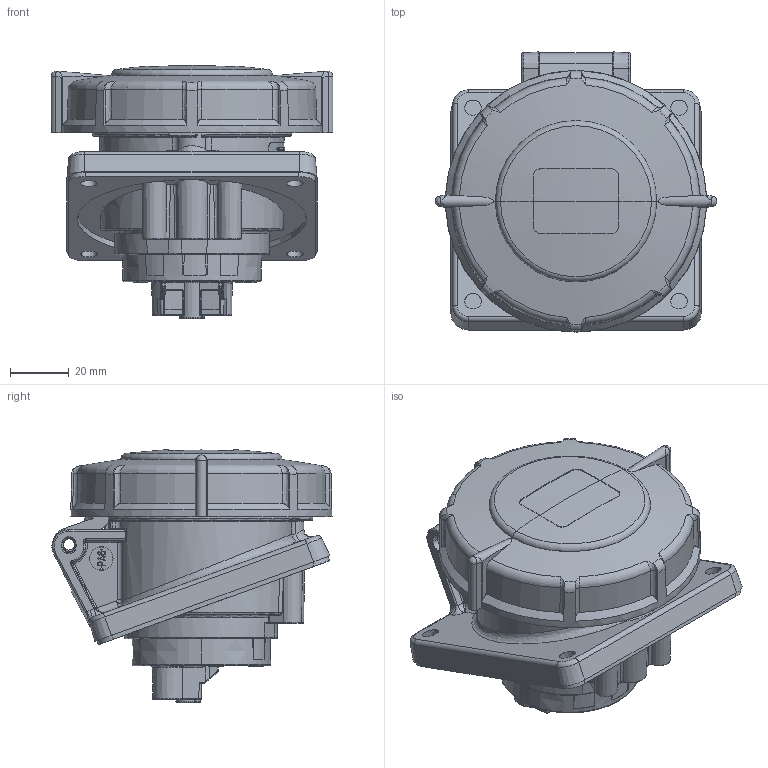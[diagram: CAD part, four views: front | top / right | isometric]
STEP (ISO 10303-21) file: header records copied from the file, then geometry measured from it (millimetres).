
FILE_DESCRIPTION((''),'2;1');
FILE_NAME('1107466_ASM_SW0001','2017-11-03T',('gisse'),('MENNEKES'),'PRO/ENGINEER BY PARAMETRIC TECHNOLOGY CORPORATION, 2015440','PRO/ENGINEER BY PARAMETRIC TECHNOLOGY CORPORATION, 2015440','');
FILE_SCHEMA(('AUTOMOTIVE_DESIGN { 1 0 10303 214 1 1 1 1 }'));
Length unit declared in the file: millimetre
Products named in the file (1): 1107466_ASM_SW0001
Bounding box: 95.7 x 95.23 x 85.99 mm (x, y, z)
Volume: 299785.1 mm3; surface area: 43767.9 mm2
Topology: 1 solids, 1 shells, 1596 faces, 4212 edges, 2685 vertices
Faces by surface type: plane 971, cylinder 264, bspline 165, torus 91, cone 75, sphere 24, extrusion 6
Entity records: 75999 total; most frequent: CARTESIAN_POINT 19429, ORIENTED_EDGE 8416, DIRECTION 7063, EDGE_CURVE 4208, FILL_AREA_STYLE_COLOUR 3015, FILL_AREA_STYLE 3015, SURFACE_STYLE_FILL_AREA 3015, SURFACE_SIDE_STYLE 3015
